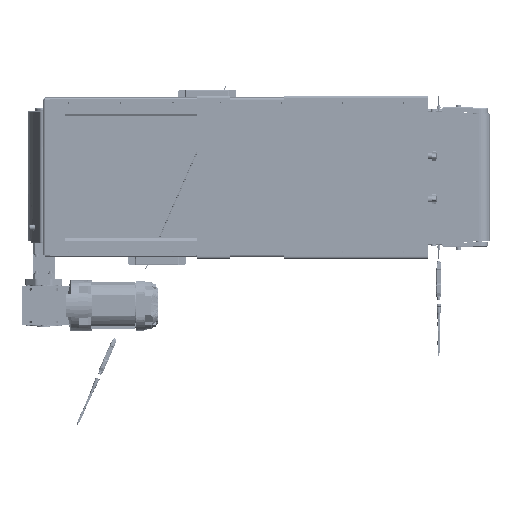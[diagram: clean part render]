
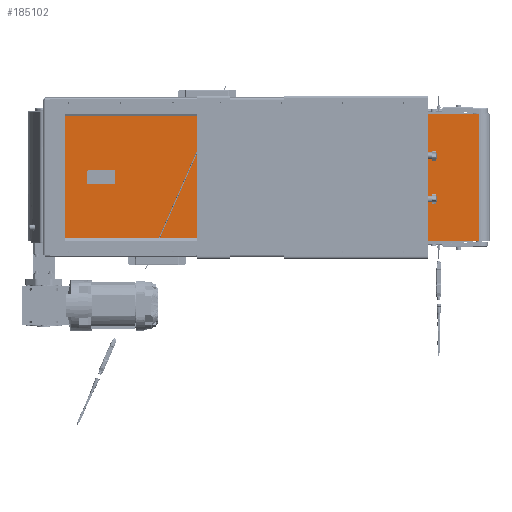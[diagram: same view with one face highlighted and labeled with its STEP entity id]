
A CAD part, front view. The second image highlights one B-rep face of the part: STEP entity #185102.
In plain terms, the highlighted planar face has unit normal (0, -1, 0) as drawn and (0, 1, 0) by its records, which use the part's own axes.
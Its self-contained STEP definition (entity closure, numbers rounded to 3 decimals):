
#610 = VECTOR ( 'NONE', #170045, 1000. ) ;
#15437 = VECTOR ( 'NONE', #103677, 1000. ) ;
#21719 = AXIS2_PLACEMENT_3D ( 'NONE', #143417, #32113, #194797 ) ;
#31629 = VERTEX_POINT ( 'NONE', #161235 ) ;
#32113 = DIRECTION ( 'NONE',  ( 0., -1., 0. ) ) ;
#61548 = CARTESIAN_POINT ( 'NONE',  ( -500.1, 24.9, 10.714 ) ) ;
#65441 = ORIENTED_EDGE ( 'NONE', *, *, #177635, .T. ) ;
#66613 = LINE ( 'NONE', #124048, #15437 ) ;
#86593 = LINE ( 'NONE', #144155, #176359 ) ;
#103677 = DIRECTION ( 'NONE',  ( 0., 0., -1. ) ) ;
#112723 = CARTESIAN_POINT ( 'NONE',  ( -500.1, 24.9, -279.286 ) ) ;
#115418 = DIRECTION ( 'NONE',  ( 0., 0., -1. ) ) ;
#115775 = CARTESIAN_POINT ( 'NONE',  ( 500.1, 24.9, -279.286 ) ) ;
#124048 = CARTESIAN_POINT ( 'NONE',  ( 500.1, 24.9, 10.714 ) ) ;
#137427 = CARTESIAN_POINT ( 'NONE',  ( 500.1, 24.9, 10.714 ) ) ;
#141806 = VERTEX_POINT ( 'NONE', #112723 ) ;
#143417 = CARTESIAN_POINT ( 'NONE',  ( 500.1, 24.9, 10.714 ) ) ;
#144155 = CARTESIAN_POINT ( 'NONE',  ( 500.1, 24.9, -279.286 ) ) ;
#150104 = EDGE_LOOP ( 'NONE', ( #175944, #199609, #169003, #65441 ) ) ;
#152201 = LINE ( 'NONE', #174773, #610 ) ;
#152437 = EDGE_CURVE ( 'NONE', #31629, #141806, #156109, .T. ) ;
#156109 = LINE ( 'NONE', #61548, #171987 ) ;
#160123 = PLANE ( 'NONE',  #21719 ) ;
#161235 = CARTESIAN_POINT ( 'NONE',  ( -500.1, 24.9, 10.714 ) ) ;
#169003 = ORIENTED_EDGE ( 'NONE', *, *, #178988, .F. ) ;
#170045 = DIRECTION ( 'NONE',  ( -1., 0., 0. ) ) ;
#171632 = VERTEX_POINT ( 'NONE', #115775 ) ;
#171987 = VECTOR ( 'NONE', #115418, 1000. ) ;
#174773 = CARTESIAN_POINT ( 'NONE',  ( 500.1, 24.9, 10.714 ) ) ;
#175944 = ORIENTED_EDGE ( 'NONE', *, *, #230192, .T. ) ;
#176359 = VECTOR ( 'NONE', #178779, 1000. ) ;
#177635 = EDGE_CURVE ( 'NONE', #200083, #171632, #66613, .T. ) ;
#178779 = DIRECTION ( 'NONE',  ( -1., 0., 0. ) ) ;
#178988 = EDGE_CURVE ( 'NONE', #200083, #31629, #152201, .T. ) ;
#185102 = ADVANCED_FACE ( 'NONE', ( #195965 ), #160123, .F. ) ;
#194797 = DIRECTION ( 'NONE',  ( 0., 0., -1. ) ) ;
#195965 = FACE_OUTER_BOUND ( 'NONE', #150104, .T. ) ;
#199609 = ORIENTED_EDGE ( 'NONE', *, *, #152437, .F. ) ;
#200083 = VERTEX_POINT ( 'NONE', #137427 ) ;
#230192 = EDGE_CURVE ( 'NONE', #171632, #141806, #86593, .T. ) ;
